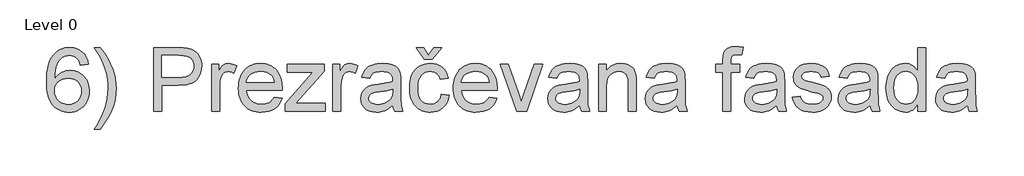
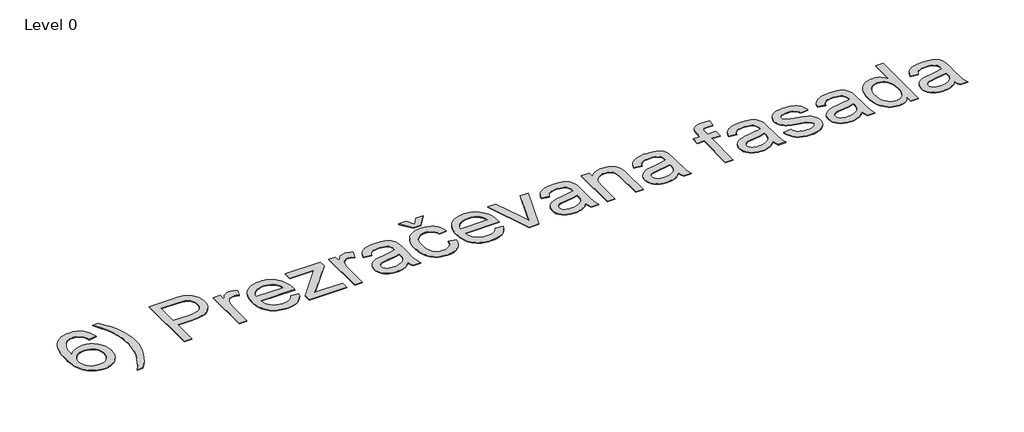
# One storey, part 11 of 11: 1 proxy.
"""IFC4 building model written with IfcOpenShell, lengths in millimetres."""

from ifc_helpers import new_model, si_unit, origin, origin_with_axes, place, context, project, spatial, polyline, outline, extrude, element, save

model = new_model("IFC4")

# Units and contexts
model_context = context("Model", 3, world=origin())
ifc_project = project(units=[si_unit("LENGTHUNIT", "METRE", prefix="MILLI")], contexts=[model_context])

# Site, building, storey
site = spatial("IfcSite", under=ifc_project)
building = spatial("IfcBuilding", under=site)
storey = spatial("IfcBuildingStorey", under=building, Name="Level 0", Elevation=0.0)

# Proxy
placement = place(None, origin())
element("IfcBuildingElementProxy", 1, Name="1000mm Arial", ObjectType="1000mm Arial", at=placement, inside=storey, context=model_context, shape_type="SweptSolid", body=[
    extrude(outline(polyline([(47490.9942643, -29681.1949749), (47365.4238766, -29696.8912734), (47356.1961699, -29663.3067129), (47345.1903669, -29634.6579026), (47332.4064675, -29610.9448423), (47317.8444719, -29592.1675321), (47290.8511305, -29569.3128632), (47260.8840763, -29552.9880996), (47227.9433093, -29543.1932415), (47192.0288295, -29539.9282888), (47162.4143289, -29541.8290124), (47133.6582196, -29547.5311834), (47105.7605017, -29557.0348016), (47078.721175, -29570.3398671), (47054.0500887, -29592.0985542), (47031.5403091, -29618.3791243), (47011.1918363, -29649.1815772), (46993.0046701, -29684.5059129), (46977.944501, -29726.6820508), (46966.977019, -29778.0399102), (46960.1022242, -29838.579491), (46957.3201166, -29908.3007933), (46981.2554389, -29876.747248), (47007.6892931, -29849.5316446), (47036.6216792, -29826.653983), (47068.0525972, -29808.1142633), (47101.1389841, -29793.7898581), (47135.0377771, -29783.5581401), (47169.7489762, -29777.4191093), (47205.2725814, -29775.3727657), (47265.6052286, -29780.9676377), (47321.2780372, -29797.7522537), (47372.2910072, -29825.7266138), (47418.6441386, -29864.8907179), (47457.1644491, -29912.9146467), (47472.2974283, -29939.3753256), (47484.6789567, -29967.4684809), (47501.1876612, -30028.5522205), (47506.6905627, -30096.1658655), (47504.1000604, -30141.9441813), (47496.3285532, -30186.0823565), (47483.3760413, -30228.5803911), (47465.2425246, -30269.4382852), (47442.5717967, -30307.1308613), (47416.0076509, -30340.132942), (47385.5500874, -30368.4445272), (47351.1991061, -30392.065617), (47313.690471, -30410.6819788), (47273.7599461, -30423.97938), (47231.4075314, -30431.9578208), (47186.6332269, -30434.6173011), (47148.2987734, -30432.8545332), (47111.7769051, -30427.5662295), (47077.0676221, -30418.75239), (47044.1709243, -30406.4130148), (47013.0868118, -30390.5481037), (46983.8152845, -30371.1576569), (46956.3563424, -30348.2416743), (46930.7099856, -30321.8001559), (46907.5161755, -30291.3119355), (46887.4148733, -30256.2558471), (46870.4060792, -30216.6318905), (46856.4897931, -30172.4400658), (46845.666015, -30123.6803731), (46837.934745, -30070.3528122), (46833.2959829, -30012.4573832), (46831.7497289, -29949.9940861), (46833.4665116, -29880.0543539), (46838.6168595, -29815.0580359), (46847.2007727, -29755.0051323), (46859.2182512, -29699.895643), (46874.669295, -29649.729568), (46893.5539041, -29604.5069074), (46915.8720785, -29564.227661), (46941.6238182, -29528.8918289), (46966.6359617, -29502.0479396), (46993.7251057, -29478.7832355), (47022.8912502, -29459.0977167), (47054.134395, -29442.9913831), (47087.4545403, -29430.4642347), (47122.851686, -29421.5162716), (47160.3258322, -29416.1474937), (47199.8769788, -29414.3579011), (47257.7110941, -29418.7878135), (47310.0576363, -29432.0775505), (47356.9166055, -29454.2271123), (47398.2880015, -29485.2364988), (47433.05285, -29524.0633778), (47460.0921767, -29569.6654167), (47479.4059814, -29622.0426158), (47490.9942643, -29681.1949749)]), holes=[polyline([(46957.3201166, -30094.2038282), (46959.136534, -30122.3391366), (46964.585786, -30149.84598), (46973.6678728, -30176.7243582), (46986.3827942, -30202.9742714), (47002.1097495, -30227.361782), (47020.2279378, -30248.6529525), (47040.737359, -30266.8477828), (47063.6380132, -30281.9462731), (47088.7842804, -30293.8028032), (47116.0305407, -30302.2717533), (47145.376794, -30307.3531234), (47176.8230404, -30309.0469134), (47220.4707063, -30305.536706), (47259.6884598, -30295.0060839), (47294.476301, -30277.455047), (47324.8342298, -30252.8835954), (47349.4593308, -30222.2880762), (47367.0486887, -30186.6648363), (47377.6023035, -30146.0138758), (47381.1201751, -30100.3351948), (47377.6482887, -30056.4422742), (47367.2326297, -30017.4697754), (47349.8731981, -29983.4176982), (47325.5699938, -29954.2860427), (47295.1200945, -29930.9485286), (47259.3205778, -29914.2788757), (47218.1714438, -29904.277084), (47171.6726925, -29900.9431534), (47128.6075064, -29904.277084), (47088.9299004, -29914.2788757), (47052.6398744, -29930.9485286), (47019.7374285, -29954.2860427), (46992.4298545, -29983.0344878), (46972.9244446, -30015.9369337), (46961.2211986, -30052.9933805), (46957.3201166, -30094.2038282)])]), origin_with_axes(), (0.0, 0.0, 1.0), 10.0),
    extrude(outline(polyline([(47679.3498458, -30701.4543749), (47585.172055, -30701.4543749), (47636.6755344, -30621.0644947), (47681.3118831, -30540.6592862), (47719.0811013, -30460.2387492), (47749.9831889, -30379.8028838), (47774.0181459, -30299.35169), (47791.1859723, -30218.8851677), (47801.4866682, -30138.4033171), (47804.9202335, -30057.906138), (47802.9428678, -29995.1209442), (47797.0107706, -29932.581005), (47787.123942, -29870.2863205), (47773.2823819, -29808.2368906), (47743.2999993, -29709.7058296), (47703.3848028, -29615.2214705), (47659.6068454, -29534.8392545), (47585.172055, -29414.3579011), (47679.3498458, -29414.3579011), (47741.4912462, -29498.4495938), (47794.9874196, -29582.7252276), (47839.8383662, -29667.1848023), (47876.0440859, -29751.828318), (47899.8644451, -29825.6346433), (47916.8789874, -29901.1270944), (47927.0877127, -29978.3056713), (47930.4906212, -30057.170374), (47925.9150889, -30146.902924), (47912.1884919, -30235.1026323), (47889.3108304, -30321.769499), (47857.2821041, -30406.9035241), (47818.7081441, -30488.5886554), (47776.194781, -30564.908841), (47729.7420149, -30635.8640808), (47679.3498458, -30701.4543749)])), origin_with_axes(), (0.0, 0.0, 1.0), 10.0),
    extrude(outline(polyline([(48526.9499627, -30418.9210026), (48526.9499627, -29414.3579011), (48899.2465418, -29414.3579011), (48985.9440654, -29416.7491341), (49049.3423959, -29423.922833), (49084.2835212, -29431.4567497), (49116.2662621, -29441.7957666), (49145.2906187, -29454.9398837), (49171.3565909, -29470.889101), (49194.7400902, -29489.9729795), (49215.7170282, -29512.5210802), (49234.2874047, -29538.5334029), (49250.4512199, -29568.0099478), (49263.5416875, -29599.9773603), (49272.8920216, -29633.4622861), (49278.502222, -29668.4647251), (49280.3722888, -29704.9846773), (49275.3215756, -29766.6508967), (49260.1694359, -29823.3813661), (49234.9158698, -29875.1760853), (49199.5608772, -29922.0350544), (49177.3250931, -29942.8433798), (49151.0234465, -29960.8772618), (49120.6559374, -29976.1367004), (49086.2225659, -29988.6216956), (49047.7233319, -29998.3322474), (49005.1582354, -30005.2683559), (48907.830455, -30010.8172426), (48652.5203504, -30010.8172426), (48652.5203504, -30418.9210026), (48526.9499627, -30418.9210026)]), holes=[polyline([(48652.5203504, -29885.2468549), (48915.1880949, -29885.2468549), (48975.5820558, -29882.3651126), (49026.5337122, -29873.7198857), (49068.0430639, -29859.3111743), (49100.1101112, -29839.1389782), (49124.0377693, -29813.7397921), (49141.1289536, -29783.6501106), (49151.3836643, -29748.8699336), (49154.8019011, -29709.3992612), (49152.7862144, -29680.091329), (49146.7391541, -29652.9906886), (49136.6607202, -29628.0973403), (49122.5509129, -29605.4112839), (49105.1608244, -29585.6682835), (49085.2415472, -29569.6041031), (49062.7930813, -29557.2187426), (49037.8154267, -29548.512202), (48989.3776306, -29542.0742671), (48912.245039, -29539.9282888), (48652.5203504, -29539.9282888), (48652.5203504, -29885.2468549)])]), origin_with_axes(), (0.0, 0.0, 1.0), 10.0),
    extrude(outline(polyline([(49437.3352734, -30418.9210026), (49437.3352734, -29681.1949749), (49547.2093627, -29681.1949749), (49547.2093627, -29790.3333002), (49587.7990095, -29727.057597), (49606.8982164, -29705.1686183), (49625.2003456, -29689.7788882), (49662.7243091, -29671.5687294), (49703.6818379, -29665.4986765), (49734.8291802, -29667.9205663), (49766.2217771, -29675.1862357), (49797.8596287, -29687.2956847), (49829.742735, -29704.2489133), (49787.8041875, -29816.8208038), (49743.6583481, -29797.5069991), (49721.5854284, -29792.6785479), (49699.5125087, -29791.0690642), (49680.2676818, -29792.6172342), (49662.019202, -29797.2617444), (49644.7670693, -29805.0025947), (49628.5112836, -29815.8397852), (49613.8649817, -29829.4207622), (49601.4413001, -29845.3929721), (49583.2617982, -29884.5110909), (49567.9946954, -29954.6539247), (49562.9056611, -30031.1733797), (49562.9056611, -30418.9210026), (49437.3352734, -30418.9210026)])), origin_with_axes(), (0.0, 0.0, 1.0), 10.0),
    extrude(outline(polyline([(50424.7305485, -30199.1728241), (50547.8483895, -30214.8691226), (50528.9714447, -30264.1806384), (50503.4879523, -30307.6366991), (50471.3979124, -30345.2373047), (50432.701325, -30376.9824552), (50387.796729, -30402.1977002), (50337.0826631, -30420.2085896), (50280.5591274, -30431.0151232), (50218.2261219, -30434.6173011), (50178.2074586, -30433.0633828), (50140.311781, -30428.4016282), (50104.539089, -30420.6320371), (50070.8893828, -30409.7546096), (50039.3626622, -30395.7693456), (50009.9589273, -30378.6762452), (49982.6781781, -30358.4753083), (49957.5204146, -30335.166535), (49934.9301608, -30309.0526615), (49915.3519409, -30280.436424), (49898.7857548, -30249.3178226), (49885.2316026, -30215.6968571), (49874.6894841, -30179.5735276), (49867.1593995, -30140.9478342), (49862.6413488, -30099.8197768), (49861.1353319, -30056.1893554), (49862.6566772, -30011.0739936), (49867.2207132, -29968.5567984), (49874.8274399, -29928.6377698), (49885.4768572, -29891.3169079), (49899.1689652, -29856.5942125), (49915.9037639, -29824.4696836), (49935.6812533, -29794.9433214), (49958.5014333, -29768.0151258), (49983.7473352, -29743.987833), (50010.8019902, -29723.1641792), (50039.6653985, -29705.5441645), (50070.3375598, -29691.1277888), (50102.8184743, -29679.9150522), (50137.1081419, -29671.9059546), (50173.2065627, -29667.100496), (50211.1137366, -29665.4986765), (50247.7812249, -29667.0966639), (50282.7357626, -29671.8906261), (50315.9773497, -29679.8805632), (50347.5059863, -29691.0664751), (50377.3216724, -29705.4483619), (50405.4244079, -29723.0262235), (50431.8141929, -29743.8000599), (50456.4910274, -29767.7698711), (50478.8226141, -29794.6367531), (50498.176656, -29824.1018017), (50514.5531529, -29856.1650168), (50527.952105, -29890.8263985), (50538.3735121, -29928.0859468), (50545.8173744, -29967.9436618), (50551.7724642, -30055.4535914), (50551.0367002, -30089.2987349), (49986.7057196, -30089.2987349), (49993.9790532, -30139.4073283), (50008.4414141, -30183.2925847), (50030.0928024, -30220.9545039), (50058.9332179, -30252.3930861), (50093.3685055, -30277.1791355), (50131.8045098, -30294.8834566), (50174.2412308, -30305.5060492), (50220.6786685, -30309.0469134), (50255.4128602, -30307.4067728), (50287.5105643, -30302.4863511), (50316.9717807, -30294.2856483), (50343.7965095, -30282.8046644), (50367.9847507, -30267.736831), (50389.5365043, -30248.7755798), (50408.4517702, -30225.9209109), (50424.7305485, -30199.1728241)]), holes=[polyline([(49986.7057196, -29963.7283472), (50426.2020765, -29963.7283472), (50419.7488131, -29928.1970779), (50409.218191, -29897.3869608), (50394.6102101, -29871.2979959), (50375.9248705, -29849.9301834), (50341.6811881, -29824.1784437), (50302.7163534, -29805.784344), (50259.0303665, -29794.7478841), (50210.6232273, -29791.0690642), (50166.4697237, -29794.0044559), (50125.9797116, -29802.8106312), (50089.153191, -29817.4875899), (50055.990162, -29838.0353322), (50028.1614219, -29863.5034962), (50007.3377681, -29892.94172), (49993.5192007, -29926.3500037), (49986.7057196, -29963.7283472)])]), origin_with_axes(), (0.0, 0.0, 1.0), 10.0),
    extrude(outline(polyline([(50598.8613595, -30418.9210026), (50598.8613595, -30300.7082548), (51032.2263499, -29806.7653626), (50903.9581609, -29806.7653626), (50630.2539565, -29806.7653626), (50630.2539565, -29681.1949749), (51211.0169995, -29681.1949749), (51211.0169995, -29787.8807535), (50826.7029419, -30226.1508371), (50767.8418227, -30293.3506149), (50913.0325834, -30293.3506149), (51226.713298, -30293.3506149), (51226.713298, -30418.9210026), (50598.8613595, -30418.9210026)])), origin_with_axes(), (0.0, 0.0, 1.0), 10.0),
    extrude(outline(polyline([(51352.2836857, -30418.9210026), (51352.2836857, -29681.1949749), (51462.1577749, -29681.1949749), (51462.1577749, -29790.3333002), (51502.7474217, -29727.057597), (51521.8466286, -29705.1686183), (51540.1487579, -29689.7788882), (51577.6727214, -29671.5687294), (51618.6302502, -29665.4986765), (51649.7775924, -29667.9205663), (51681.1701893, -29675.1862357), (51712.8080409, -29687.2956847), (51744.6911472, -29704.2489133), (51702.7525997, -29816.8208038), (51658.6067603, -29797.5069991), (51636.5338406, -29792.6785479), (51614.4609209, -29791.0690642), (51595.216094, -29792.6172342), (51576.9676142, -29797.2617444), (51559.7154815, -29805.0025947), (51543.4596958, -29815.8397852), (51528.8133939, -29829.4207622), (51516.3897123, -29845.3929721), (51498.2102104, -29884.5110909), (51482.9431076, -29954.6539247), (51477.8540733, -30031.1733797), (51477.8540733, -30418.9210026), (51352.2836857, -30418.9210026)])), origin_with_axes(), (0.0, 0.0, 1.0), 10.0),
    extrude(outline(polyline([(52294.0615933, -30324.7432118), (52264.2861443, -30352.6869151), (52234.0661713, -30376.1853775), (52203.4016741, -30395.2385992), (52172.2926529, -30409.8465801), (52140.386554, -30420.6837705), (52107.3308239, -30428.4246208), (52073.1254626, -30433.069131), (52037.77047, -30434.6173011), (51981.8600709, -30430.8924959), (51932.8321309, -30419.7180803), (51890.6866498, -30401.0940543), (51855.4236277, -30375.0204178), (51827.5795592, -30343.15264), (51807.6909389, -30307.1461897), (51795.7577666, -30267.001067), (51791.7800426, -30222.7172718), (51797.7887818, -30170.6619695), (51805.2997059, -30146.4277431), (51815.8149996, -30123.3891331), (51843.6207471, -30082.9221137), (51878.9680754, -30051.2842621), (51920.508084, -30027.3719324), (51966.8918723, -30010.0814786), (52012.080044, -30000.4552331), (52075.5396882, -29991.1968695), (52203.9305045, -29971.3312418), (52253.5026033, -29960.110841), (52293.3258293, -29948.0320488), (52294.0615933, -29920.0730171), (52291.9002866, -29889.630782), (52285.4163664, -29864.0323265), (52274.6098328, -29843.2776506), (52259.4806858, -29827.3667544), (52233.3304073, -29811.4865149), (52201.4779579, -29800.1434867), (52163.9233375, -29793.3376698), (52120.6665463, -29791.0690642), (52080.4447814, -29792.5789132), (52045.8638739, -29797.1084603), (52016.9238236, -29804.6577054), (51993.6246306, -29815.2266485), (51974.4794384, -29829.6430242), (51958.0013907, -29848.7345669), (51944.1904875, -29872.5012766), (51933.0467287, -29900.9431534), (51807.476341, -29885.2468549), (51817.0336087, -29849.0717921), (51829.2733492, -29816.5755492), (51844.1955627, -29787.7581262), (51861.800249, -29762.6195232), (51882.8461648, -29740.6539024), (51908.0920667, -29721.3554261), (51937.5379547, -29704.7240942), (51971.1838289, -29690.7599068), (52008.3475746, -29679.7081185), (52048.3470774, -29671.8139841), (52091.1823372, -29667.0775034), (52136.853354, -29665.4986765), (52221.7421244, -29671.0782201), (52257.5876263, -29678.0526496), (52289.0338727, -29687.8168509), (52339.7709312, -29712.9861107), (52359.3223264, -29727.7090547), (52374.9956323, -29743.8575415), (52398.3561389, -29782.0252985), (52413.5006144, -29829.083537), (52418.0991394, -29872.4936124), (52419.631981, -29938.9576262), (52419.631981, -30095.1848468), (52421.2261363, -30231.2705282), (52426.0086022, -30313.33887), (52435.4509068, -30367.2642391), (52451.0245779, -30418.9210026), (52325.4541902, -30418.9210026), (52305.3433078, -30375.2656725), (52294.0615933, -30324.7432118)]), holes=[polyline([(52294.0615933, -30073.6024365), (52209.6939891, -30094.5103965), (52091.4812413, -30112.1074186), (52026.3354713, -30121.7336642), (51983.4465621, -30132.4635557), (51955.3342463, -30146.3817578), (51934.5182567, -30165.5729353), (51921.6423869, -30188.56556), (51917.3504303, -30213.888104), (51919.6880138, -30233.4011781), (51926.7007643, -30251.2281265), (51938.3886818, -30267.368949), (51954.7517664, -30281.8236457), (51975.6367339, -30293.7338253), (52000.8903, -30302.2410965), (52030.5124648, -30307.3454591), (52064.5032283, -30309.0469134), (52099.2067632, -30307.1691824), (52131.9482608, -30301.5359893), (52162.727721, -30292.1473342), (52191.545144, -30279.0032171), (52217.5421383, -30263.1919555), (52239.8603127, -30245.801867), (52258.4996671, -30226.8329517), (52273.4602016, -30206.2852094), (52282.1514137, -30187.8911096), (52288.3594224, -30165.5729353), (52293.3258293, -30109.1643627), (52294.0615933, -30073.6024365)])]), origin_with_axes(), (0.0, 0.0, 1.0), 10.0),
    extrude(outline(polyline([(52859.1283379, -29539.9282888), (52945.4579794, -29414.3579011), (53071.0283671, -29414.3579011), (52921.9135317, -29602.7134826), (52796.3431441, -29602.7134826), (52662.9246071, -29414.3579011), (52788.4949948, -29414.3579011), (52859.1283379, -29539.9282888)])), origin_with_axes(), (0.0, 0.0, 1.0), 10.0),
    extrude(outline(polyline([(53063.1802179, -30152.0839288), (53188.7506056, -30167.7802272), (53175.0929865, -30227.0322211), (53153.7405024, -30279.4630696), (53124.6931532, -30325.0727728), (53087.9509389, -30363.8613307), (53045.0620296, -30394.8170677), (52997.5745954, -30416.9283085), (52945.4886363, -30430.1950529), (52888.8041522, -30434.6173011), (52852.6808227, -30433.0748792), (52818.3777427, -30428.4476134), (52785.8949122, -30420.7355039), (52755.2323311, -30409.9385506), (52726.3899995, -30396.0567534), (52699.3679173, -30379.0901124), (52674.1660846, -30359.0386276), (52650.7845013, -30335.902299), (52629.7175089, -30309.8842281), (52611.4594489, -30281.1875164), (52596.0103211, -30249.812164), (52583.3701257, -30215.7581708), (52573.5388626, -30179.0255368), (52566.5165318, -30139.614262), (52560.8986671, -30052.7557901), (52563.2975643, -29995.0213095), (52570.4942559, -29941.011634), (52582.4887417, -29890.7267638), (52599.281022, -29844.1666988), (52620.9860597, -29802.2664724), (52647.718818, -29765.961118), (52679.4792969, -29735.2506356), (52716.2674964, -29710.1350252), (52756.4202834, -29690.6066227), (52798.2745245, -29676.6577637), (52841.8302199, -29668.2884483), (52887.0873695, -29665.4986765), (52942.7984992, -29669.3307806), (52993.1906683, -29680.8270929), (53038.2638769, -29699.9876135), (53078.018125, -29726.8123423), (53111.7789623, -29760.6881427), (53138.8719384, -29801.001878), (53159.2970533, -29847.7535483), (53173.0543071, -29900.9431534), (53047.4839194, -29916.6394519), (53037.6813971, -29887.3085269), (53024.7058926, -29861.8556914), (53008.5574058, -29840.2809452), (52989.2359369, -29822.5842884), (52967.231995, -29808.7963778), (52943.0360896, -29798.9478702), (52916.6482207, -29793.0387657), (52888.0683882, -29791.0690642), (52845.401741, -29794.9471535), (52806.9197514, -29806.5814216), (52772.6224196, -29825.9718685), (52742.5097454, -29853.118494), (52717.9919433, -29888.6497634), (52700.4792275, -29933.1941416), (52689.971598, -29986.7516288), (52686.4690548, -30049.3222248), (52689.8949559, -30112.8355184), (52700.1726592, -30167.0138064), (52717.3021646, -30211.8570888), (52741.2834721, -30247.3653655), (52770.798338, -30274.3510427), (52804.5285185, -30293.6265264), (52842.4740134, -30305.1918166), (52884.6348229, -30309.0469134), (52918.610258, -30306.640352), (52949.6579655, -30299.4206678), (52977.7779456, -30287.3878609), (53002.970198, -30270.5419312), (53024.5296158, -30248.6989378), (53041.7510917, -30221.6749395), (53054.6346257, -30189.4699365), (53063.1802179, -30152.0839288)])), origin_with_axes(), (0.0, 0.0, 1.0), 10.0),
    extrude(outline(polyline([(53815.131016, -30199.1728241), (53938.2488571, -30214.8691226), (53919.3719122, -30264.1806384), (53893.8884198, -30307.6366991), (53861.79838, -30345.2373047), (53823.1017926, -30376.9824552), (53778.1971966, -30402.1977002), (53727.4831307, -30420.2085896), (53670.959595, -30431.0151232), (53608.6265894, -30434.6173011), (53568.6079261, -30433.0633828), (53530.7122485, -30428.4016282), (53494.9395566, -30420.6320371), (53461.2898503, -30409.7546096), (53429.7631298, -30395.7693456), (53400.3593949, -30378.6762452), (53373.0786457, -30358.4753083), (53347.9208822, -30335.166535), (53325.3306284, -30309.0526615), (53305.7524085, -30280.436424), (53289.1862224, -30249.3178226), (53275.6320701, -30215.6968571), (53265.0899517, -30179.5735276), (53257.5598671, -30140.9478342), (53253.0418163, -30099.8197768), (53251.5357994, -30056.1893554), (53253.0571448, -30011.0739936), (53257.6211808, -29968.5567984), (53265.2279074, -29928.6377698), (53275.8773248, -29891.3169079), (53289.5694328, -29856.5942125), (53306.3042315, -29824.4696836), (53326.0817208, -29794.9433214), (53348.9019008, -29768.0151258), (53374.1478027, -29743.987833), (53401.2024578, -29723.1641792), (53430.065866, -29705.5441645), (53460.7380273, -29691.1277888), (53493.2189418, -29679.9150522), (53527.5086095, -29671.9059546), (53563.6070303, -29667.100496), (53601.5142042, -29665.4986765), (53638.1816924, -29667.0966639), (53673.1362301, -29671.8906261), (53706.3778173, -29679.8805632), (53737.9064539, -29691.0664751), (53767.72214, -29705.4483619), (53795.8248755, -29723.0262235), (53822.2146605, -29743.8000599), (53846.891495, -29767.7698711), (53869.2230817, -29794.6367531), (53888.5771235, -29824.1018017), (53904.9536205, -29856.1650168), (53918.3525725, -29890.8263985), (53928.7739797, -29928.0859468), (53936.2178419, -29967.9436618), (53942.1729317, -30055.4535914), (53941.4371677, -30089.2987349), (53377.1061871, -30089.2987349), (53384.3795207, -30139.4073283), (53398.8418817, -30183.2925847), (53420.4932699, -30220.9545039), (53449.3336855, -30252.3930861), (53483.7689731, -30277.1791355), (53522.2049774, -30294.8834566), (53564.6416984, -30305.5060492), (53611.079136, -30309.0469134), (53645.8133278, -30307.4067728), (53677.9110318, -30302.4863511), (53707.3722483, -30294.2856483), (53734.1969771, -30282.8046644), (53758.3852183, -30267.736831), (53779.9369718, -30248.7755798), (53798.8522377, -30225.9209109), (53815.131016, -30199.1728241)]), holes=[polyline([(53377.1061871, -29963.7283472), (53816.602544, -29963.7283472), (53810.1492807, -29928.1970779), (53799.6186586, -29897.3869608), (53785.0106777, -29871.2979959), (53766.325338, -29849.9301834), (53732.0816556, -29824.1784437), (53693.116821, -29805.784344), (53649.430834, -29794.7478841), (53601.0236948, -29791.0690642), (53556.8701912, -29794.0044559), (53516.3801791, -29802.8106312), (53479.5536586, -29817.4875899), (53446.3906295, -29838.0353322), (53418.5618894, -29863.5034962), (53397.7382357, -29892.94172), (53383.9196682, -29926.3500037), (53377.1061871, -29963.7283472)])]), origin_with_axes(), (0.0, 0.0, 1.0), 10.0),
    extrude(outline(polyline([(54248.741261, -30418.9210026), (53989.2618271, -29681.1949749), (54122.1898547, -29681.1949749), (54279.3980939, -30123.1438785), (54326.732244, -30271.7682045), (54373.0853754, -30131.482537), (54531.2746333, -29681.1949749), (54664.2026609, -29681.1949749), (54407.9115376, -30418.9210026), (54248.741261, -30418.9210026)])), origin_with_axes(), (0.0, 0.0, 1.0), 10.0),
    extrude(outline(polyline([(55244.965704, -30324.7432118), (55215.190255, -30352.6869151), (55184.9702819, -30376.1853775), (55154.3057848, -30395.2385992), (55123.1967636, -30409.8465801), (55091.2906647, -30420.6837705), (55058.2349346, -30428.4246208), (55024.0295732, -30433.069131), (54988.6745807, -30434.6173011), (54932.7641816, -30430.8924959), (54883.7362415, -30419.7180803), (54841.5907605, -30401.0940543), (54806.3277384, -30375.0204178), (54778.4836699, -30343.15264), (54758.5950495, -30307.1461897), (54746.6618773, -30267.001067), (54742.6841532, -30222.7172718), (54748.6928925, -30170.6619695), (54756.2038165, -30146.4277431), (54766.7191102, -30123.3891331), (54794.5248577, -30082.9221137), (54829.8721861, -30051.2842621), (54871.4121947, -30027.3719324), (54917.7959829, -30010.0814786), (54962.9841547, -30000.4552331), (55026.4437988, -29991.1968695), (55154.8346151, -29971.3312418), (55204.406714, -29960.110841), (55244.22994, -29948.0320488), (55244.965704, -29920.0730171), (55242.8043972, -29889.630782), (55236.3204771, -29864.0323265), (55225.5139435, -29843.2776506), (55210.3847964, -29827.3667544), (55184.2345179, -29811.4865149), (55152.3820685, -29800.1434867), (55114.8274482, -29793.3376698), (55071.5706569, -29791.0690642), (55031.3488921, -29792.5789132), (54996.7679845, -29797.1084603), (54967.8279343, -29804.6577054), (54944.5287412, -29815.2266485), (54925.3835491, -29829.6430242), (54908.9055014, -29848.7345669), (54895.0945981, -29872.5012766), (54883.9508394, -29900.9431534), (54758.3804517, -29885.2468549), (54767.9377193, -29849.0717921), (54780.1774599, -29816.5755492), (54795.0996733, -29787.7581262), (54812.7043596, -29762.6195232), (54833.7502754, -29740.6539024), (54858.9961774, -29721.3554261), (54888.4420654, -29704.7240942), (54922.0879395, -29690.7599068), (54959.2516852, -29679.7081185), (54999.251188, -29671.8139841), (55042.0864478, -29667.0775034), (55087.7574647, -29665.4986765), (55172.6462351, -29671.0782201), (55208.491737, -29678.0526496), (55239.9379834, -29687.8168509), (55290.6750419, -29712.9861107), (55310.2264371, -29727.7090547), (55325.8997429, -29743.8575415), (55349.2602496, -29782.0252985), (55364.4047251, -29829.083537), (55369.00325, -29872.4936124), (55370.5360916, -29938.9576262), (55370.5360916, -30095.1848468), (55372.130247, -30231.2705282), (55376.9127129, -30313.33887), (55386.3550174, -30367.2642391), (55401.9286886, -30418.9210026), (55276.3583009, -30418.9210026), (55256.2474185, -30375.2656725), (55244.965704, -30324.7432118)]), holes=[polyline([(55244.965704, -30073.6024365), (55160.5980997, -30094.5103965), (55042.3853519, -30112.1074186), (54977.239582, -30121.7336642), (54934.3506727, -30132.4635557), (54906.2383569, -30146.3817578), (54885.4223673, -30165.5729353), (54872.5464975, -30188.56556), (54868.2545409, -30213.888104), (54870.5921244, -30233.4011781), (54877.6048749, -30251.2281265), (54889.2927925, -30267.368949), (54905.6558771, -30281.8236457), (54926.5408445, -30293.7338253), (54951.7944106, -30302.2410965), (54981.4165755, -30307.3454591), (55015.407339, -30309.0469134), (55050.1108738, -30307.1691824), (55082.8523714, -30301.5359893), (55113.6318317, -30292.1473342), (55142.4492546, -30279.0032171), (55168.446249, -30263.1919555), (55190.7644233, -30245.801867), (55209.4037778, -30226.8329517), (55224.3643122, -30206.2852094), (55233.0555244, -30187.8911096), (55239.263533, -30165.5729353), (55244.22994, -30109.1643627), (55244.965704, -30073.6024365)])]), origin_with_axes(), (0.0, 0.0, 1.0), 10.0),
    extrude(outline(polyline([(55543.1953747, -30418.9210026), (55543.1953747, -29681.1949749), (55668.7657624, -29681.1949749), (55668.7657624, -29784.2019336), (55689.4821173, -29756.3808577), (55712.3904357, -29732.2692586), (55737.4907176, -29711.8671363), (55764.7829631, -29695.1744908), (55794.2671722, -29682.191322), (55825.9433448, -29672.91763), (55859.811481, -29667.3534149), (55895.8715808, -29665.4986765), (55957.7677264, -29671.4767589), (55986.7614262, -29678.9493619), (56014.4522105, -29689.4110062), (56039.790083, -29702.3022044), (56061.7250469, -29717.0634695), (56080.2571024, -29733.6948013), (56095.3862495, -29752.1962), (56118.22559, -29794.7172273), (56133.0328403, -29844.5345808), (56137.9992472, -29892.1752992), (56139.6547162, -29965.9356392), (56139.6547162, -30418.9210026), (56014.0843285, -30418.9210026), (56014.0843285, -29982.858211), (56010.4668223, -29917.9270388), (55999.6143034, -29871.7578484), (55990.9920691, -29854.2911179), (55979.5953915, -29838.6791257), (55965.4242705, -29824.9218719), (55948.4787061, -29813.0193565), (55908.5941664, -29796.5566373), (55862.2716919, -29791.0690642), (55824.1422559, -29794.1500759), (55788.7259497, -29803.393111), (55756.0227731, -29818.7981696), (55726.0327263, -29840.3652515), (55700.9784296, -29870.5469035), (55683.0825034, -29911.7956723), (55672.3449476, -29964.1115576), (55668.7657624, -30027.4945597), (55668.7657624, -30418.9210026), (55543.1953747, -30418.9210026)])), origin_with_axes(), (0.0, 0.0, 1.0), 10.0),
    extrude(outline(polyline([(56783.2029531, -30324.7432118), (56753.4275041, -30352.6869151), (56723.2075311, -30376.1853775), (56692.5430339, -30395.2385992), (56661.4340127, -30409.8465801), (56629.5279138, -30420.6837705), (56596.4721837, -30428.4246208), (56562.2668224, -30433.069131), (56526.9118298, -30434.6173011), (56471.0014308, -30430.8924959), (56421.9734907, -30419.7180803), (56379.8280096, -30401.0940543), (56344.5649875, -30375.0204178), (56316.720919, -30343.15264), (56296.8322987, -30307.1461897), (56284.8991264, -30267.001067), (56280.9214024, -30222.7172718), (56286.9301416, -30170.6619695), (56294.4410657, -30146.4277431), (56304.9563594, -30123.3891331), (56332.7621069, -30082.9221137), (56368.1094352, -30051.2842621), (56409.6494439, -30027.3719324), (56456.0332321, -30010.0814786), (56501.2214038, -30000.4552331), (56564.681048, -29991.1968695), (56693.0718643, -29971.3312418), (56742.6439632, -29960.110841), (56782.4671891, -29948.0320488), (56783.2029531, -29920.0730171), (56781.0416464, -29889.630782), (56774.5577262, -29864.0323265), (56763.7511926, -29843.2776506), (56748.6220456, -29827.3667544), (56722.4717671, -29811.4865149), (56690.6193177, -29800.1434867), (56653.0646973, -29793.3376698), (56609.8079061, -29791.0690642), (56569.5861413, -29792.5789132), (56535.0052337, -29797.1084603), (56506.0651834, -29804.6577054), (56482.7659904, -29815.2266485), (56463.6207982, -29829.6430242), (56447.1427505, -29848.7345669), (56433.3318473, -29872.5012766), (56422.1880885, -29900.9431534), (56296.6177008, -29885.2468549), (56306.1749685, -29849.0717921), (56318.414709, -29816.5755492), (56333.3369225, -29787.7581262), (56350.9416088, -29762.6195232), (56371.9875246, -29740.6539024), (56397.2334265, -29721.3554261), (56426.6793145, -29704.7240942), (56460.3251887, -29690.7599068), (56497.4889344, -29679.7081185), (56537.4884372, -29671.8139841), (56580.323697, -29667.0775034), (56625.9947139, -29665.4986765), (56710.8834842, -29671.0782201), (56746.7289861, -29678.0526496), (56778.1752325, -29687.8168509), (56828.912291, -29712.9861107), (56848.4636862, -29727.7090547), (56864.1369921, -29743.8575415), (56887.4974988, -29782.0252985), (56902.6419742, -29829.083537), (56907.2404992, -29872.4936124), (56908.7733408, -29938.9576262), (56908.7733408, -30095.1848468), (56910.3674961, -30231.2705282), (56915.1499621, -30313.33887), (56924.5922666, -30367.2642391), (56940.1659377, -30418.9210026), (56814.59555, -30418.9210026), (56794.4846676, -30375.2656725), (56783.2029531, -30324.7432118)]), holes=[polyline([(56783.2029531, -30073.6024365), (56698.8353489, -30094.5103965), (56580.6226011, -30112.1074186), (56515.4768311, -30121.7336642), (56472.5879219, -30132.4635557), (56444.4756061, -30146.3817578), (56423.6596165, -30165.5729353), (56410.7837467, -30188.56556), (56406.4917901, -30213.888104), (56408.8293736, -30233.4011781), (56415.8421241, -30251.2281265), (56427.5300417, -30267.368949), (56443.8931262, -30281.8236457), (56464.7780937, -30293.7338253), (56490.0316598, -30302.2410965), (56519.6538246, -30307.3454591), (56553.6445881, -30309.0469134), (56588.348123, -30307.1691824), (56621.0896206, -30301.5359893), (56651.8690808, -30292.1473342), (56680.6865038, -30279.0032171), (56706.6834981, -30263.1919555), (56729.0016725, -30245.801867), (56747.6410269, -30226.8329517), (56762.6015614, -30206.2852094), (56771.2927735, -30187.8911096), (56777.5007822, -30165.5729353), (56782.4671891, -30109.1643627), (56783.2029531, -30073.6024365)])]), origin_with_axes(), (0.0, 0.0, 1.0), 10.0),
    extrude(outline(polyline([(57505.2326823, -30418.9210026), (57505.2326823, -29806.7653626), (57395.3585931, -29806.7653626), (57395.3585931, -29681.1949749), (57505.2326823, -29681.1949749), (57505.2326823, -29606.8828119), (57508.5436203, -29545.3852051), (57518.4764341, -29502.1590706), (57529.3902667, -29480.1934498), (57543.7376645, -29460.4044642), (57561.5186276, -29442.7921136), (57582.733156, -29427.3563983), (57607.8411021, -29414.8024252), (57637.3023186, -29405.8353016), (57671.1168053, -29400.4550274), (57709.2845623, -29398.6616026), (57763.7924113, -29402.0951679), (57823.8184901, -29412.3958638), (57805.4243904, -29530.1181023), (57733.0742647, -29524.2319903), (57685.3415758, -29529.4436519), (57667.6142622, -29535.9582289), (57653.9796357, -29545.0786367), (57643.8398882, -29557.7552371), (57636.5972114, -29574.938392), (57632.2516054, -29596.6281013), (57630.80307, -29622.824365), (57630.80307, -29681.1949749), (57772.0697562, -29681.1949749), (57772.0697562, -29806.7653626), (57630.80307, -29806.7653626), (57630.80307, -30418.9210026), (57505.2326823, -30418.9210026)])), origin_with_axes(), (0.0, 0.0, 1.0), 10.0),
    extrude(outline(polyline([(58352.8327992, -30324.7432118), (58323.0573502, -30352.6869151), (58292.8373772, -30376.1853775), (58262.17288, -30395.2385992), (58231.0638588, -30409.8465801), (58199.1577599, -30420.6837705), (58166.1020298, -30428.4246208), (58131.8966685, -30433.069131), (58096.5416759, -30434.6173011), (58040.6312768, -30430.8924959), (57991.6033368, -30419.7180803), (57949.4578557, -30401.0940543), (57914.1948336, -30375.0204178), (57886.3507651, -30343.15264), (57866.4621448, -30307.1461897), (57854.5289725, -30267.001067), (57850.5512485, -30222.7172718), (57856.5599877, -30170.6619695), (57864.0709118, -30146.4277431), (57874.5862055, -30123.3891331), (57902.3919529, -30082.9221137), (57937.7392813, -30051.2842621), (57979.2792899, -30027.3719324), (58025.6630782, -30010.0814786), (58070.8512499, -30000.4552331), (58134.3108941, -29991.1968695), (58262.7017104, -29971.3312418), (58312.2738092, -29960.110841), (58352.0970352, -29948.0320488), (58352.8327992, -29920.0730171), (58350.6714925, -29889.630782), (58344.1875723, -29864.0323265), (58333.3810387, -29843.2776506), (58318.2518917, -29827.3667544), (58292.1016132, -29811.4865149), (58260.2491638, -29800.1434867), (58222.6945434, -29793.3376698), (58179.4377522, -29791.0690642), (58139.2159873, -29792.5789132), (58104.6350798, -29797.1084603), (58075.6950295, -29804.6577054), (58052.3958365, -29815.2266485), (58033.2506443, -29829.6430242), (58016.7725966, -29848.7345669), (58002.9616934, -29872.5012766), (57991.8179346, -29900.9431534), (57866.2475469, -29885.2468549), (57875.8048146, -29849.0717921), (57888.0445551, -29816.5755492), (57902.9667686, -29787.7581262), (57920.5714549, -29762.6195232), (57941.6173707, -29740.6539024), (57966.8632726, -29721.3554261), (57996.3091606, -29704.7240942), (58029.9550348, -29690.7599068), (58067.1187805, -29679.7081185), (58107.1182833, -29671.8139841), (58149.9535431, -29667.0775034), (58195.6245599, -29665.4986765), (58280.5133303, -29671.0782201), (58316.3588322, -29678.0526496), (58347.8050786, -29687.8168509), (58398.5421371, -29712.9861107), (58418.0935323, -29727.7090547), (58433.7668381, -29743.8575415), (58457.1273448, -29782.0252985), (58472.2718203, -29829.083537), (58476.8703453, -29872.4936124), (58478.4031869, -29938.9576262), (58478.4031869, -30095.1848468), (58479.9973422, -30231.2705282), (58484.7798081, -30313.33887), (58494.2221127, -30367.2642391), (58509.7957838, -30418.9210026), (58384.2253961, -30418.9210026), (58364.1145137, -30375.2656725), (58352.8327992, -30324.7432118)]), holes=[polyline([(58352.8327992, -30073.6024365), (58268.465195, -30094.5103965), (58150.2524472, -30112.1074186), (58085.1066772, -30121.7336642), (58042.2177679, -30132.4635557), (58014.1054522, -30146.3817578), (57993.2894626, -30165.5729353), (57980.4135928, -30188.56556), (57976.1216361, -30213.888104), (57978.4592197, -30233.4011781), (57985.4719702, -30251.2281265), (57997.1598877, -30267.368949), (58013.5229723, -30281.8236457), (58034.4079398, -30293.7338253), (58059.6615059, -30302.2410965), (58089.2836707, -30307.3454591), (58123.2744342, -30309.0469134), (58157.9779691, -30307.1691824), (58190.7194667, -30301.5359893), (58221.4989269, -30292.1473342), (58250.3163499, -30279.0032171), (58276.3133442, -30263.1919555), (58298.6315186, -30245.801867), (58317.270873, -30226.8329517), (58332.2314075, -30206.2852094), (58340.9226196, -30187.8911096), (58347.1306283, -30165.5729353), (58352.0970352, -30109.1643627), (58352.8327992, -30073.6024365)])]), origin_with_axes(), (0.0, 0.0, 1.0), 10.0),
    extrude(outline(polyline([(58603.9735746, -30199.1728241), (58729.5439623, -30183.4765257), (58737.1315284, -30212.1100076), (58749.3482763, -30237.187297), (58766.194206, -30258.7083937), (58787.6693175, -30276.6732978), (58813.8349244, -30290.8367546), (58844.7523404, -30300.9535095), (58880.4215655, -30307.0235624), (58920.8425998, -30309.0469134), (58961.2176487, -30307.192175), (58996.0131541, -30301.6279598), (59025.2291159, -30292.3542678), (59048.8655341, -30279.3710991), (59067.1063497, -30263.8893985), (59080.1355037, -30247.1201109), (59087.9529961, -30229.0632363), (59090.5588269, -30209.7187747), (59087.9376677, -30192.7655461), (59080.07419, -30177.7130411), (59066.9683939, -30164.5612598), (59048.6202794, -30153.3102021), (59001.5926977, -30137.368649), (58919.3710718, -30117.5030212), (58804.7758303, -30084.3629848), (58730.2797263, -30056.066728), (58704.7042634, -30041.8802786), (58682.4244101, -30025.1952973), (58663.4401663, -30006.0117841), (58647.751532, -29984.329739), (58635.4658062, -29960.8006197), (58626.6902878, -29936.0758839), (58621.4249767, -29910.1555317), (58619.669873, -29883.039563), (58625.3107303, -29834.3871691), (58642.2333021, -29789.4749089), (58668.9047467, -29750.0808785), (58703.7922226, -29717.9831745), (58738.4651007, -29697.7803216), (58783.6226156, -29680.8270929), (58835.831202, -29669.3307806), (58891.6572948, -29665.4986765), (58933.8564253, -29667.0391823), (58973.3884114, -29671.6606999), (59010.253253, -29679.3632292), (59044.4509501, -29690.1467702), (59075.1690967, -29703.5591346), (59101.5952867, -29719.1481341), (59123.7295201, -29736.9137688), (59141.5717969, -29756.8560386), (59156.041822, -29779.6723865), (59168.0593005, -29806.0602555), (59177.6242324, -29836.0196455), (59184.7366176, -29869.5505565), (59059.1662299, -29885.2468549), (59053.1804833, -29864.269917), (59043.3166473, -29845.7301973), (59029.574722, -29829.6276958), (59011.9547072, -29815.9624125), (58990.3799611, -29805.0715726), (58964.7738414, -29797.2924013), (58935.1363481, -29792.6248984), (58901.4674814, -29791.0690642), (58862.4106762, -29792.5559206), (58829.3626103, -29797.0164898), (58802.3232837, -29804.4507717), (58781.2926963, -29814.8587665), (58765.5197557, -29827.244127), (58754.2533696, -29840.6105062), (58747.493538, -29854.957904), (58745.2402607, -29870.2863205), (58748.9803943, -29889.6001252), (58760.2007952, -29906.8292653), (58779.3919726, -29922.2189954), (58807.0444359, -29934.5430423), (58915.2017425, -29961.2758006), (59026.1488209, -29994.0786118), (59099.5106221, -30020.3821745), (59125.3236754, -30033.2120591), (59148.1936728, -30048.6477745), (59168.1206142, -30066.6893206), (59185.1044996, -30087.3366976), (59198.6778124, -30110.6205622), (59208.3730358, -30136.5715713), (59214.1901699, -30165.1897248), (59216.1292146, -30196.4750229), (59213.8529447, -30227.8982766), (59207.0241352, -30258.4018254), (59195.642786, -30287.9856692), (59179.708897, -30316.6498079), (59159.4830515, -30343.2522747), (59135.2258325, -30366.6511025), (59106.9372399, -30386.8462911), (59074.6172737, -30403.8378408), (59039.147318, -30417.3038547), (59001.4087567, -30426.922436), (58961.4015897, -30432.6935848), (58919.1258171, -30434.6173011), (58851.5428289, -30430.9078243), (58792.5130971, -30419.7793939), (58742.0366217, -30401.23201), (58700.1134027, -30375.2656725), (58665.8697203, -30342.0030088), (58638.4318548, -30301.5666461), (58617.7998062, -30253.9565846), (58603.9735746, -30199.1728241)])), origin_with_axes(), (0.0, 0.0, 1.0), 10.0),
    extrude(outline(polyline([(59828.2848545, -30324.7432118), (59798.5094055, -30352.6869151), (59768.2894325, -30376.1853775), (59737.6249353, -30395.2385992), (59706.5159141, -30409.8465801), (59674.6098153, -30420.6837705), (59641.5540851, -30428.4246208), (59607.3487238, -30433.069131), (59571.9937312, -30434.6173011), (59516.0833322, -30430.8924959), (59467.0553921, -30419.7180803), (59424.909911, -30401.0940543), (59389.646889, -30375.0204178), (59361.8028204, -30343.15264), (59341.9142001, -30307.1461897), (59329.9810279, -30267.001067), (59326.0033038, -30222.7172718), (59332.012043, -30170.6619695), (59339.5229671, -30146.4277431), (59350.0382608, -30123.3891331), (59377.8440083, -30082.9221137), (59413.1913366, -30051.2842621), (59454.7313453, -30027.3719324), (59501.1151335, -30010.0814786), (59546.3033052, -30000.4552331), (59609.7629494, -29991.1968695), (59738.1537657, -29971.3312418), (59787.7258646, -29960.110841), (59827.5490905, -29948.0320488), (59828.2848545, -29920.0730171), (59826.1235478, -29889.630782), (59819.6396276, -29864.0323265), (59808.833094, -29843.2776506), (59793.703947, -29827.3667544), (59767.5536685, -29811.4865149), (59735.7012191, -29800.1434867), (59698.1465987, -29793.3376698), (59654.8898075, -29791.0690642), (59614.6680427, -29792.5789132), (59580.0871351, -29797.1084603), (59551.1470848, -29804.6577054), (59527.8478918, -29815.2266485), (59508.7026996, -29829.6430242), (59492.2246519, -29848.7345669), (59478.4137487, -29872.5012766), (59467.2699899, -29900.9431534), (59341.6996022, -29885.2468549), (59351.2568699, -29849.0717921), (59363.4966105, -29816.5755492), (59378.4188239, -29787.7581262), (59396.0235102, -29762.6195232), (59417.069426, -29740.6539024), (59442.3153279, -29721.3554261), (59471.761216, -29704.7240942), (59505.4070901, -29690.7599068), (59542.5708358, -29679.7081185), (59582.5703386, -29671.8139841), (59625.4055984, -29667.0775034), (59671.0766153, -29665.4986765), (59755.9653856, -29671.0782201), (59791.8108876, -29678.0526496), (59823.2571339, -29687.8168509), (59873.9941924, -29712.9861107), (59893.5455876, -29727.7090547), (59909.2188935, -29743.8575415), (59932.5794002, -29782.0252985), (59947.7238756, -29829.083537), (59952.3224006, -29872.4936124), (59953.8552422, -29938.9576262), (59953.8552422, -30095.1848468), (59955.4493975, -30231.2705282), (59960.2318635, -30313.33887), (59969.674168, -30367.2642391), (59985.2478391, -30418.9210026), (59859.6774515, -30418.9210026), (59839.5665691, -30375.2656725), (59828.2848545, -30324.7432118)]), holes=[polyline([(59828.2848545, -30073.6024365), (59743.9172503, -30094.5103965), (59625.7045025, -30112.1074186), (59560.5587325, -30121.7336642), (59517.6698233, -30132.4635557), (59489.5575075, -30146.3817578), (59468.7415179, -30165.5729353), (59455.8656481, -30188.56556), (59451.5736915, -30213.888104), (59453.911275, -30233.4011781), (59460.9240255, -30251.2281265), (59472.6119431, -30267.368949), (59488.9750276, -30281.8236457), (59509.8599951, -30293.7338253), (59535.1135612, -30302.2410965), (59564.735726, -30307.3454591), (59598.7264895, -30309.0469134), (59633.4300244, -30307.1691824), (59666.171522, -30301.5359893), (59696.9509823, -30292.1473342), (59725.7684052, -30279.0032171), (59751.7653995, -30263.1919555), (59774.0835739, -30245.801867), (59792.7229283, -30226.8329517), (59807.6834628, -30206.2852094), (59816.3746749, -30187.8911096), (59822.5826836, -30165.5729353), (59827.5490905, -30109.1643627), (59828.2848545, -30073.6024365)])]), origin_with_axes(), (0.0, 0.0, 1.0), 10.0),
    extrude(outline(polyline([(60581.7071807, -30418.9210026), (60581.7071807, -30300.4630002), (60563.9147212, -30331.9054144), (60544.1372319, -30359.1555068), (60522.3747126, -30382.2132773), (60498.6271634, -30401.0787258), (60472.8945843, -30415.7518525), (60445.1769752, -30426.2326573), (60415.4743362, -30432.5211401), (60383.7866672, -30434.6173011), (60342.3386291, -30431.5822746), (60302.6073736, -30422.4771952), (60264.5929008, -30407.3020629), (60228.2952106, -30386.0568777), (60194.8486059, -30359.3777688), (60165.3873894, -30327.9008656), (60139.9115613, -30291.6261681), (60118.4211214, -30250.5536761), (60101.3605939, -30205.4651391), (60089.1745028, -30157.1423062), (60081.8628481, -30105.5851774), (60079.4256299, -30050.7937528), (60081.6712429, -29997.0063394), (60088.408082, -29945.7634431), (60099.636147, -29897.065064), (60115.3554381, -29850.911202), (60135.558291, -29808.6507579), (60160.2370415, -29771.6326321), (60189.3916896, -29739.8568248), (60223.0222354, -29713.3233359), (60259.9407264, -29692.4000474), (60298.9592105, -29677.4548413), (60340.0776877, -29668.4877177), (60383.2961579, -29665.4986765), (60414.9033527, -29667.6369906), (60444.7324511, -29674.0519329), (60472.7834532, -29684.7435034), (60499.0563591, -29699.711702), (60523.2599287, -29718.0981376), (60545.1029221, -29739.0444187), (60564.5853395, -29762.5505453), (60581.7071807, -29788.6165175), (60581.7071807, -29414.3579011), (60707.2775683, -29414.3579011), (60707.2775683, -30418.9210026), (60581.7071807, -30418.9210026)]), holes=[polyline([(60204.9960176, -30050.3032434), (60208.5368818, -30111.1953778), (60219.1594744, -30163.8868094), (60236.8637954, -30208.3775382), (60261.6498449, -30244.6675642), (60291.249017, -30272.8335295), (60323.3927064, -30292.9520761), (60358.0809128, -30305.0232041), (60395.3136364, -30309.0469134), (60432.7226368, -30305.2071451), (60467.2039097, -30293.6878401), (60498.757455, -30274.4889985), (60527.3832727, -30247.6106202), (60551.1499824, -30212.8381074), (60568.1262037, -30169.9568624), (60578.3119364, -30118.966885), (60581.7071807, -30059.8681753), (60578.2506227, -29995.0749589), (60567.880949, -29939.5094492), (60550.5981594, -29893.1716462), (60526.402254, -29856.06155), (60497.1479712, -29827.6273374), (60464.6900494, -29807.3171856), (60429.0284884, -29795.1310945), (60390.1632885, -29791.0690642), (60352.1948009, -29794.9701462), (60317.5065945, -29806.6733921), (60286.0986691, -29826.1788021), (60257.9710249, -29853.486376), (60234.7944592, -29889.1939222), (60218.2397694, -29933.8992488), (60208.3069556, -29987.6023559), (60204.9960176, -30050.3032434)])]), origin_with_axes(), (0.0, 0.0, 1.0), 10.0),
    extrude(outline(polyline([(61366.5221037, -30324.7432118), (61336.7466547, -30352.6869151), (61306.5266817, -30376.1853775), (61275.8621845, -30395.2385992), (61244.7531633, -30409.8465801), (61212.8470644, -30420.6837705), (61179.7913343, -30428.4246208), (61145.585973, -30433.069131), (61110.2309804, -30434.6173011), (61054.3205813, -30430.8924959), (61005.2926413, -30419.7180803), (60963.1471602, -30401.0940543), (60927.8841381, -30375.0204178), (60900.0400696, -30343.15264), (60880.1514492, -30307.1461897), (60868.218277, -30267.001067), (60864.240553, -30222.7172718), (60870.2492922, -30170.6619695), (60877.7602163, -30146.4277431), (60888.27551, -30123.3891331), (60916.0812574, -30082.9221137), (60951.4285858, -30051.2842621), (60992.9685944, -30027.3719324), (61039.3523827, -30010.0814786), (61084.5405544, -30000.4552331), (61148.0001986, -29991.1968695), (61276.3910149, -29971.3312418), (61325.9631137, -29960.110841), (61365.7863397, -29948.0320488), (61366.5221037, -29920.0730171), (61364.360797, -29889.630782), (61357.8768768, -29864.0323265), (61347.0703432, -29843.2776506), (61331.9411962, -29827.3667544), (61305.7909177, -29811.4865149), (61273.9384682, -29800.1434867), (61236.3838479, -29793.3376698), (61193.1270566, -29791.0690642), (61152.9052918, -29792.5789132), (61118.3243843, -29797.1084603), (61089.384334, -29804.6577054), (61066.085141, -29815.2266485), (61046.9399488, -29829.6430242), (61030.4619011, -29848.7345669), (61016.6509979, -29872.5012766), (61005.5072391, -29900.9431534), (60879.9368514, -29885.2468549), (60889.4941191, -29849.0717921), (60901.7338596, -29816.5755492), (60916.6560731, -29787.7581262), (60934.2607594, -29762.6195232), (60955.3066752, -29740.6539024), (60980.5525771, -29721.3554261), (61009.9984651, -29704.7240942), (61043.6443393, -29690.7599068), (61080.808085, -29679.7081185), (61120.8075878, -29671.8139841), (61163.6428476, -29667.0775034), (61209.3138644, -29665.4986765), (61294.2026348, -29671.0782201), (61330.0481367, -29678.0526496), (61361.4943831, -29687.8168509), (61412.2314416, -29712.9861107), (61431.7828368, -29727.7090547), (61447.4561426, -29743.8575415), (61470.8166493, -29782.0252985), (61485.9611248, -29829.083537), (61490.5596497, -29872.4936124), (61492.0924914, -29938.9576262), (61492.0924914, -30095.1848468), (61493.6866467, -30231.2705282), (61498.4691126, -30313.33887), (61507.9114172, -30367.2642391), (61523.4850883, -30418.9210026), (61397.9147006, -30418.9210026), (61377.8038182, -30375.2656725), (61366.5221037, -30324.7432118)]), holes=[polyline([(61366.5221037, -30073.6024365), (61282.1544995, -30094.5103965), (61163.9417517, -30112.1074186), (61098.7959817, -30121.7336642), (61055.9070724, -30132.4635557), (61027.7947566, -30146.3817578), (61006.9787671, -30165.5729353), (60994.1028972, -30188.56556), (60989.8109406, -30213.888104), (60992.1485241, -30233.4011781), (60999.1612747, -30251.2281265), (61010.8491922, -30267.368949), (61027.2122768, -30281.8236457), (61048.0972442, -30293.7338253), (61073.3508104, -30302.2410965), (61102.9729752, -30307.3454591), (61136.9637387, -30309.0469134), (61171.6672736, -30307.1691824), (61204.4087712, -30301.5359893), (61235.1882314, -30292.1473342), (61264.0056544, -30279.0032171), (61290.0026487, -30263.1919555), (61312.3208231, -30245.801867), (61330.9601775, -30226.8329517), (61345.920712, -30206.2852094), (61354.6119241, -30187.8911096), (61360.8199328, -30165.5729353), (61365.7863397, -30109.1643627), (61366.5221037, -30073.6024365)])]), origin_with_axes(), (0.0, 0.0, 1.0), 10.0),
])

save(model, "model.ifc")
